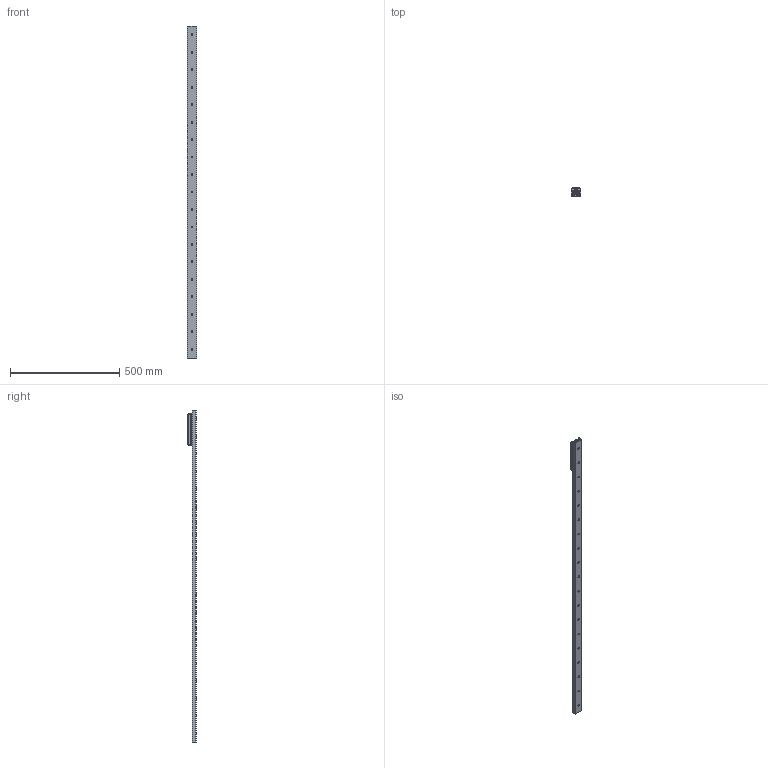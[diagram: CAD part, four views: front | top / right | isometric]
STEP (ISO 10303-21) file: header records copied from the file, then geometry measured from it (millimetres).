
FILE_DESCRIPTION( ( 'STEP AP214' ), '1' );
FILE_NAME( 'p:/temp/worker_55/temp/exporttempdir_3700_67_kxKBl/format_2/TGV-01520_1_RV43G-3.stp', '2021-06-09T19:31:39', ( 'License CC BY-ND 4.0' ), ( 'CADENAS' ), ' ', 'PARTsolutions', ' ' );
FILE_SCHEMA( ( 'AUTOMOTIVE_DESIGN { 1 0 10303 214 1 1 1 1 }' ) );
Length unit declared in the file: millimetre
Products named in the file (6): TGV-01520/1/RV43G-3; _TGV43-1520-(3-1); _RVG43-3-slider; _RGNV43R; _RGAV43R; _WR43G-01
Assembly tree (7 placements, depth 2):
  TGV-01520/1/RV43G-3
    _TGV43-1520-(3-1)
    _RVG43-3-slider
    _RGNV43R  x2
    _RGAV43R
    _WR43G-01  x2
Bounding box: 43 x 37 x 1520 mm (x, y, z)
Volume: 677401.8 mm3; surface area: 271975.4 mm2
Topology: 7 solids, 7 shells, 1079 faces, 2819 edges, 1836 vertices
Faces by surface type: plane 663, cylinder 315, cone 58, bspline 34, torus 9
Full cylindrical faces by diameter (mm): 1.76 x4, 3 x8, 6 x4, 6.647 x4, 6.8 x3, 8 x3, 8.5 x19, 11 x11, 15 x6, 15.5 x1, 18.98 x2, 19 x1, 31.4 x6
Entity records: 25823 total; most frequent: CARTESIAN_POINT 4078, DIRECTION 3457, ORIENTED_EDGE 3178, EDGE_CURVE 1589, AXIS2_PLACEMENT_3D 1325, VERTEX_POINT 1108, EDGE_LOOP 911, LINE 807
